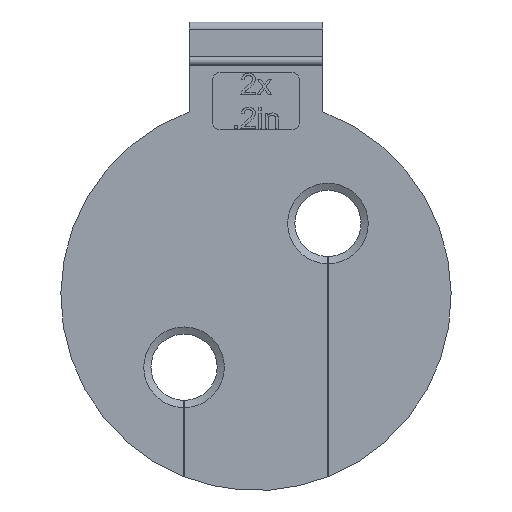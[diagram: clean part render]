
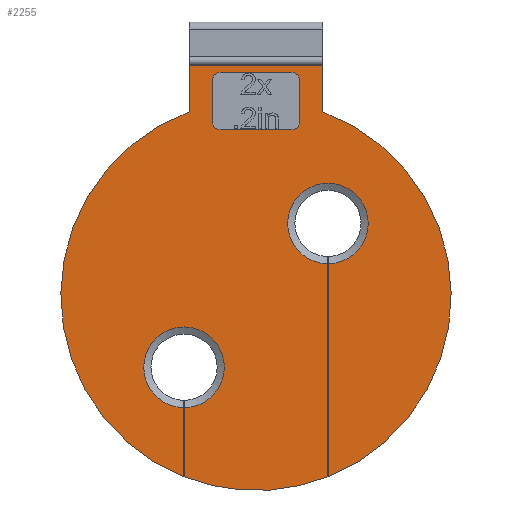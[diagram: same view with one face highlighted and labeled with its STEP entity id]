
A CAD part, left-side view. The second image highlights one B-rep face of the part: STEP entity #2255.
In plain terms, the highlighted planar face has unit normal (-1, 0, 0).
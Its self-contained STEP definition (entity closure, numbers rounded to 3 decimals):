
#91=FACE_BOUND('',#310,.T.);
#137=CIRCLE('',#2399,2.8);
#138=CIRCLE('',#2401,13.57);
#141=CIRCLE('',#2406,13.57);
#142=CIRCLE('',#2407,13.57);
#143=CIRCLE('',#2408,2.8);
#144=CIRCLE('',#2409,0.5);
#145=CIRCLE('',#2410,0.5);
#146=CIRCLE('',#2411,0.5);
#147=CIRCLE('',#2412,0.5);
#187=FACE_OUTER_BOUND('',#309,.T.);
#309=EDGE_LOOP('',(#1551,#1552,#1553,#1554,#1555,#1556,#1557,#1558,#1559,
#1560,#1561,#1562));
#310=EDGE_LOOP('',(#1563,#1564,#1565,#1566,#1567,#1568,#1569,#1570));
#439=LINE('',#3056,#683);
#447=LINE('',#3081,#691);
#451=LINE('',#3094,#695);
#466=LINE('',#3128,#710);
#467=LINE('',#3147,#711);
#468=LINE('',#3149,#712);
#469=LINE('',#3151,#713);
#470=LINE('',#3158,#714);
#471=LINE('',#3162,#715);
#472=LINE('',#3166,#716);
#473=LINE('',#3169,#717);
#683=VECTOR('',#2532,10.);
#691=VECTOR('',#2542,10.);
#695=VECTOR('',#2548,10.);
#710=VECTOR('',#2565,10.);
#711=VECTOR('',#2598,10.);
#712=VECTOR('',#2599,10.);
#713=VECTOR('',#2600,10.);
#714=VECTOR('',#2607,10.);
#715=VECTOR('',#2610,10.);
#716=VECTOR('',#2613,10.);
#717=VECTOR('',#2616,10.);
#927=VERTEX_POINT('',#3053);
#928=VERTEX_POINT('',#3055);
#937=VERTEX_POINT('',#3076);
#938=VERTEX_POINT('',#3080);
#941=VERTEX_POINT('',#3088);
#943=VERTEX_POINT('',#3093);
#951=VERTEX_POINT('',#3110);
#958=VERTEX_POINT('',#3126);
#959=VERTEX_POINT('',#3144);
#960=VERTEX_POINT('',#3146);
#961=VERTEX_POINT('',#3148);
#962=VERTEX_POINT('',#3150);
#963=VERTEX_POINT('',#3154);
#964=VERTEX_POINT('',#3155);
#965=VERTEX_POINT('',#3157);
#966=VERTEX_POINT('',#3159);
#967=VERTEX_POINT('',#3161);
#968=VERTEX_POINT('',#3163);
#969=VERTEX_POINT('',#3165);
#970=VERTEX_POINT('',#3167);
#1155=EDGE_CURVE('',#928,#927,#439,.T.);
#1165=EDGE_CURVE('',#938,#937,#447,.T.);
#1170=EDGE_CURVE('',#943,#941,#451,.T.);
#1186=EDGE_CURVE('',#951,#958,#466,.T.);
#1191=EDGE_CURVE('',#927,#938,#137,.T.);
#1192=EDGE_CURVE('',#928,#941,#138,.T.);
#1195=EDGE_CURVE('',#959,#937,#141,.T.);
#1196=EDGE_CURVE('',#959,#960,#467,.T.);
#1197=EDGE_CURVE('',#960,#961,#468,.T.);
#1198=EDGE_CURVE('',#961,#962,#469,.T.);
#1199=EDGE_CURVE('',#951,#962,#142,.T.);
#1200=EDGE_CURVE('',#958,#943,#143,.T.);
#1201=EDGE_CURVE('',#963,#964,#144,.T.);
#1202=EDGE_CURVE('',#964,#965,#470,.T.);
#1203=EDGE_CURVE('',#965,#966,#145,.T.);
#1204=EDGE_CURVE('',#966,#967,#471,.T.);
#1205=EDGE_CURVE('',#967,#968,#146,.T.);
#1206=EDGE_CURVE('',#968,#969,#472,.T.);
#1207=EDGE_CURVE('',#969,#970,#147,.T.);
#1208=EDGE_CURVE('',#970,#963,#473,.T.);
#1551=ORIENTED_EDGE('',*,*,#1165,.T.);
#1552=ORIENTED_EDGE('',*,*,#1195,.F.);
#1553=ORIENTED_EDGE('',*,*,#1196,.T.);
#1554=ORIENTED_EDGE('',*,*,#1197,.T.);
#1555=ORIENTED_EDGE('',*,*,#1198,.T.);
#1556=ORIENTED_EDGE('',*,*,#1199,.F.);
#1557=ORIENTED_EDGE('',*,*,#1186,.T.);
#1558=ORIENTED_EDGE('',*,*,#1200,.T.);
#1559=ORIENTED_EDGE('',*,*,#1170,.T.);
#1560=ORIENTED_EDGE('',*,*,#1192,.F.);
#1561=ORIENTED_EDGE('',*,*,#1155,.T.);
#1562=ORIENTED_EDGE('',*,*,#1191,.T.);
#1563=ORIENTED_EDGE('',*,*,#1201,.T.);
#1564=ORIENTED_EDGE('',*,*,#1202,.T.);
#1565=ORIENTED_EDGE('',*,*,#1203,.T.);
#1566=ORIENTED_EDGE('',*,*,#1204,.T.);
#1567=ORIENTED_EDGE('',*,*,#1205,.T.);
#1568=ORIENTED_EDGE('',*,*,#1206,.T.);
#1569=ORIENTED_EDGE('',*,*,#1207,.T.);
#1570=ORIENTED_EDGE('',*,*,#1208,.T.);
#2175=PLANE('',#2405);
#2255=ADVANCED_FACE('',(#187,#91),#2175,.F.);
#2399=AXIS2_PLACEMENT_3D('',#3137,#2582,#2583);
#2401=AXIS2_PLACEMENT_3D('',#3139,#2586,#2587);
#2405=AXIS2_PLACEMENT_3D('',#3143,#2594,#2595);
#2406=AXIS2_PLACEMENT_3D('',#3145,#2596,#2597);
#2407=AXIS2_PLACEMENT_3D('',#3152,#2601,#2602);
#2408=AXIS2_PLACEMENT_3D('',#3153,#2603,#2604);
#2409=AXIS2_PLACEMENT_3D('',#3156,#2605,#2606);
#2410=AXIS2_PLACEMENT_3D('',#3160,#2608,#2609);
#2411=AXIS2_PLACEMENT_3D('',#3164,#2611,#2612);
#2412=AXIS2_PLACEMENT_3D('',#3168,#2614,#2615);
#2532=DIRECTION('',(0.,0.,1.));
#2542=DIRECTION('',(0.,0.,-1.));
#2548=DIRECTION('',(0.,0.,-1.));
#2565=DIRECTION('',(0.,0.,1.));
#2582=DIRECTION('center_axis',(1.,0.,0.));
#2583=DIRECTION('ref_axis',(0.,0.,-1.));
#2586=DIRECTION('center_axis',(1.,0.,0.));
#2587=DIRECTION('ref_axis',(0.,0.,-1.));
#2594=DIRECTION('center_axis',(1.,0.,0.));
#2595=DIRECTION('ref_axis',(0.,0.,-1.));
#2596=DIRECTION('center_axis',(1.,0.,0.));
#2597=DIRECTION('ref_axis',(0.,0.,-1.));
#2598=DIRECTION('',(0.,0.,1.));
#2599=DIRECTION('',(0.,1.,0.));
#2600=DIRECTION('',(0.,0.,-1.));
#2601=DIRECTION('center_axis',(1.,0.,0.));
#2602=DIRECTION('ref_axis',(0.,0.,-1.));
#2603=DIRECTION('center_axis',(1.,0.,0.));
#2604=DIRECTION('ref_axis',(0.,0.,1.));
#2605=DIRECTION('center_axis',(1.,0.,0.));
#2606=DIRECTION('ref_axis',(0.,0.,
-1.));
#2607=DIRECTION('',(0.,-1.,0.));
#2608=DIRECTION('center_axis',(1.,0.,0.));
#2609=DIRECTION('ref_axis',(0.,1.,0.));
#2610=DIRECTION('',(0.,0.,-1.));
#2611=DIRECTION('center_axis',(1.,0.,0.));
#2612=DIRECTION('ref_axis',(0.,0.,1.));
#2613=DIRECTION('',(0.,1.,0.));
#2614=DIRECTION('center_axis',(1.,0.,0.));
#2615=DIRECTION('ref_axis',(0.,-1.,0.));
#2616=DIRECTION('',(0.,0.,1.));
#3053=CARTESIAN_POINT('',(-0.8,-4.995,2.2));
#3055=CARTESIAN_POINT('',(-0.8,-4.995,-12.617));
#3056=CARTESIAN_POINT('',(-0.8,-4.995,1.35));
#3076=CARTESIAN_POINT('',(-0.8,-5.005,-12.613));
#3080=CARTESIAN_POINT('',(-0.8,-5.005,2.2));
#3081=CARTESIAN_POINT('',(-0.8,-5.005,-6.307));
#3088=CARTESIAN_POINT('',(-0.8,4.995,-12.617));
#3093=CARTESIAN_POINT('',(-0.8,4.995,-7.8));
#3094=CARTESIAN_POINT('',(-0.8,4.995,-6.309));
#3110=CARTESIAN_POINT('',(-0.8,5.005,-12.613));
#3126=CARTESIAN_POINT('',(-0.8,5.005,-7.8));
#3128=CARTESIAN_POINT('',(-0.8,5.005,-3.65));
#3137=CARTESIAN_POINT('Origin',(-0.8,-5.,5.));
#3139=CARTESIAN_POINT('Origin',(-0.8,0.,
0.));
#3143=CARTESIAN_POINT('Origin',(-0.8,0.,
0.));
#3144=CARTESIAN_POINT('',(-0.8,-4.65,12.748));
#3145=CARTESIAN_POINT('Origin',(-0.8,0.,
0.));
#3146=CARTESIAN_POINT('',(-0.8,-4.65,16.));
#3147=CARTESIAN_POINT('',(-0.8,-4.65,17.418));
#3148=CARTESIAN_POINT('',(-0.8,4.65,16.));
#3149=CARTESIAN_POINT('',(-0.8,0.,16.));
#3150=CARTESIAN_POINT('',(-0.8,4.65,12.748));
#3151=CARTESIAN_POINT('',(-0.8,4.65,14.255));
#3152=CARTESIAN_POINT('Origin',(-0.8,0.,
0.));
#3153=CARTESIAN_POINT('Origin',(-0.8,5.,-5.));
#3154=CARTESIAN_POINT('',(-0.8,3.,15.));
#3155=CARTESIAN_POINT('',(-0.8,2.5,15.5));
#3156=CARTESIAN_POINT('Origin',(-0.8,2.5,15.));
#3157=CARTESIAN_POINT('',(-0.8,-2.5,15.5));
#3158=CARTESIAN_POINT('',(-0.8,-1.25,15.5));
#3159=CARTESIAN_POINT('',(-0.8,-3.,15.));
#3160=CARTESIAN_POINT('Origin',(-0.8,-2.5,15.));
#3161=CARTESIAN_POINT('',(-0.8,-3.,12.));
#3162=CARTESIAN_POINT('',(-0.8,-3.,6.));
#3163=CARTESIAN_POINT('',(-0.8,-2.5,11.5));
#3164=CARTESIAN_POINT('Origin',(-0.8,-2.5,12.));
#3165=CARTESIAN_POINT('',(-0.8,2.5,11.5));
#3166=CARTESIAN_POINT('',(-0.8,1.25,11.5));
#3167=CARTESIAN_POINT('',(-0.8,3.,12.));
#3168=CARTESIAN_POINT('Origin',(-0.8,2.5,12.));
#3169=CARTESIAN_POINT('',(-0.8,3.,7.5));
